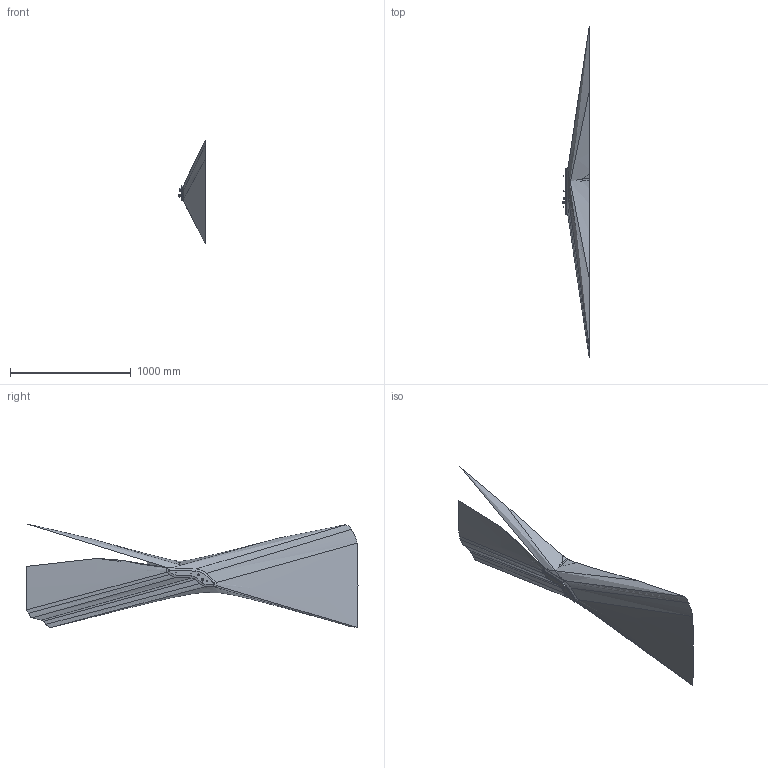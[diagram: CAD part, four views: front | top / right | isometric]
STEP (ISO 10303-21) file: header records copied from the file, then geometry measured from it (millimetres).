
FILE_DESCRIPTION(('CATIA V5 STEP Exchange','CAx-IF Rec.Pracs.--- Model Styling and Organization---1.5--- 2016-08-15','CAx-IF Rec.Pracs.---Supplemental Geometry---1.0---2011-11-01','CAx-IF Rec.Pracs.--- Composite Materials ---1.1---2010-07-15'),'2;1');
FILE_NAME('E:\tmp\ddx\2011204\3D_data_LED_position_lamp_SHAPELINE_style_wing_2PF 013 325.stp','2022-01-18T07:38:06+00:00',('none'),('none'),'CATIA Version 5-6 Release 2020 SP3 HF9','CATIA V5 STEP AP214 Edition 3 v2','none');
FILE_SCHEMA(('AUTOMOTIVE_DESIGN { 1 0 10303 214 3 1 1 1 }'));
Products named in the file (1): 10002759117_D10_001
Bounding box: 219.1 x 2746.95 x 859.07 mm (x, y, z)
Volume: 360078.2 mm3; surface area: 2309547.9 mm2
Topology: 1 solids, 5 shells, 1479 faces, 3524 edges, 2052 vertices
Faces by surface type: bspline 687, cylinder 333, plane 275, torus 76, cone 70, extrusion 24, sphere 14
Entity records: 80897 total; most frequent: CARTESIAN_POINT 53778, ORIENTED_EDGE 6915, EDGE_CURVE 3494, DIRECTION 2929, VERTEX_POINT 2052, B_SPLINE_CURVE_WITH_KNOTS 2011, EDGE_LOOP 1522, ADVANCED_FACE 1479
